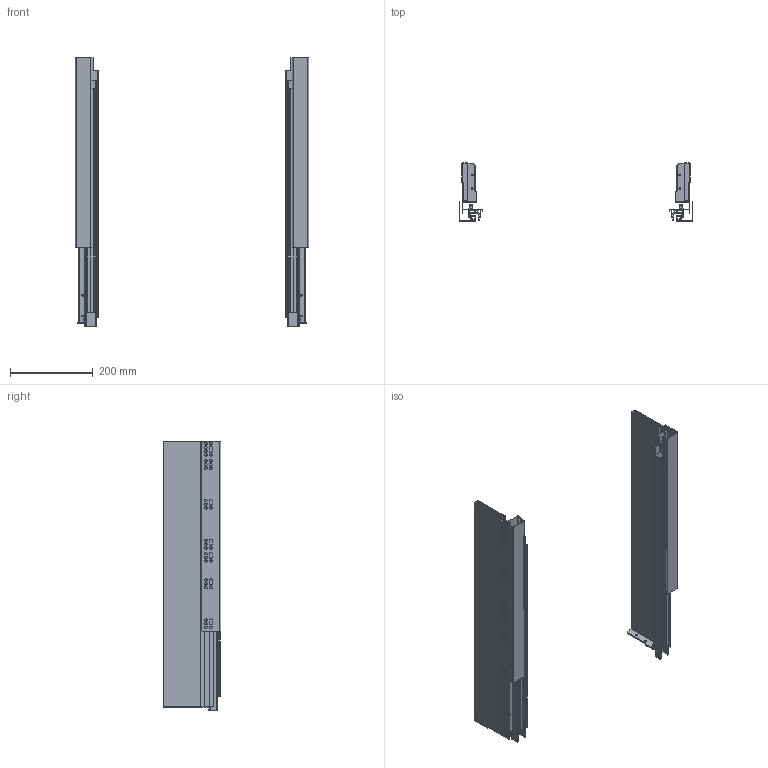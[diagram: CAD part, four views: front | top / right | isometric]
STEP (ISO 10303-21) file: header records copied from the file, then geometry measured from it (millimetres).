
FILE_DESCRIPTION (( 'STEP AP203' ), '1' );
FILE_NAME ('558503_3D.step', '2026-10-06T13:27:30', ( '' ), ( '' ), 'SwSTEP 2.0', 'SolidWorks 2026', '' );
FILE_SCHEMA (( 'CONFIG_CONTROL_DESIGN' ));
Length unit declared in the file: millimetre
Products named in the file (9): pravá2Zadní plast doraz 121; pravá2Bočnice levá_H121-L650; levý výsuv_NL650; 558503_3D; pravá2Plech č.2_L650; výsuv_NL650; Zadní plast doraz 121; Plech č.2_L650; Bočnice levá_H121-L650
Assembly tree (8 placements, depth 2):
  558503_3D
    Bočnice levá_H121-L650
    Zadní plast doraz 121
    Plech č.2_L650
    výsuv_NL650
    levý výsuv_NL650
    pravá2Plech č.2_L650
    pravá2Zadní plast doraz 121
    pravá2Bočnice levá_H121-L650
Bounding box: 564 x 139.9 x 650 mm (x, y, z)
Volume: 580378.5 mm3; surface area: 1278594.4 mm2
Topology: 14 solids, 14 shells, 794 faces, 1862 edges, 1096 vertices
Faces by surface type: plane 440, cylinder 290, torus 48, bspline 12, cone 4
Full cylindrical faces by diameter (mm): 4.2 x4, 4.5 x12, 6.2 x64
Entity records: 23163 total; most frequent: CARTESIAN_POINT 4275, DIRECTION 3896, ORIENTED_EDGE 3420, EDGE_CURVE 1710, AXIS2_PLACEMENT_3D 1417, LINE 1062, VECTOR 1062, EDGE_LOOP 1062
